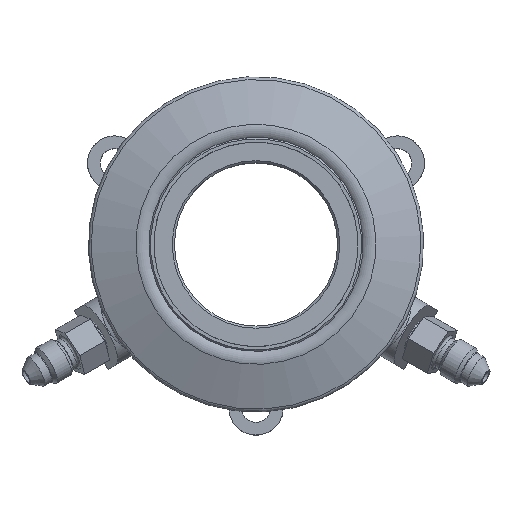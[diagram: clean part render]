
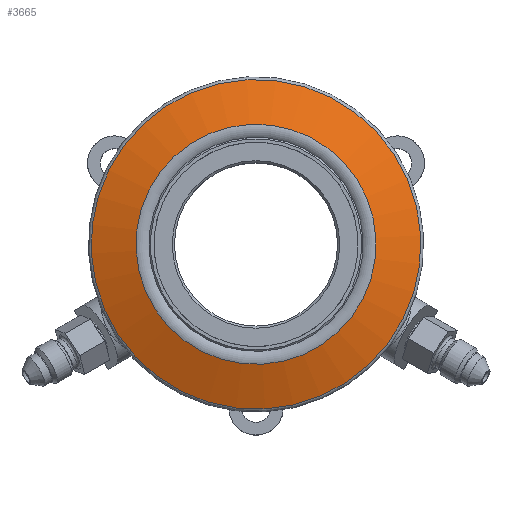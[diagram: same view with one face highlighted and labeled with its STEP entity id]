
A CAD part, top view. The second image highlights one B-rep face of the part: STEP entity #3665.
In plain terms, the highlighted conical face has half-angle 70 degrees and reference radius 39.15 mm.
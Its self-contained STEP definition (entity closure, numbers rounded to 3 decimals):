
#53=CONICAL_SURFACE('',#3929,39.15,1.222);
#993=ORIENTED_EDGE('',*,*,#1419,.F.);
#994=ORIENTED_EDGE('',*,*,#1410,.T.);
#1410=EDGE_CURVE('',#1667,#1667,#1837,.T.);
#1419=EDGE_CURVE('',#1676,#1676,#1846,.T.);
#1667=VERTEX_POINT('',#6183);
#1676=VERTEX_POINT('',#6207);
#1837=CIRCLE('',#3913,38.492);
#1846=CIRCLE('',#3928,28.026);
#2017=EDGE_LOOP('',(#993));
#2018=EDGE_LOOP('',(#994));
#2251=FACE_BOUND('',#2017,.T.);
#2252=FACE_BOUND('',#2018,.T.);
#3665=ADVANCED_FACE('',(#2251,#2252),#53,.T.);
#3913=AXIS2_PLACEMENT_3D('',#6182,#4497,#4498);
#3928=AXIS2_PLACEMENT_3D('',#6206,#4527,#4528);
#3929=AXIS2_PLACEMENT_3D('',#6208,#4529,#4530);
#4497=DIRECTION('',(0.,0.,1.));
#4498=DIRECTION('',(-0.452,-0.892,0.));
#4527=DIRECTION('',(0.,0.,1.));
#4528=DIRECTION('',(-0.452,-0.892,0.));
#4529=DIRECTION('',(0.,0.,-1.));
#4530=DIRECTION('',(0.452,0.892,0.));
#6182=CARTESIAN_POINT('',(0.,0.,66.888));
#6183=CARTESIAN_POINT('',(-17.393,-34.338,66.888));
#6206=CARTESIAN_POINT('',(0.,0.,70.698));
#6207=CARTESIAN_POINT('',(-12.664,-25.002,70.698));
#6208=CARTESIAN_POINT('',(0.,0.,66.649));
